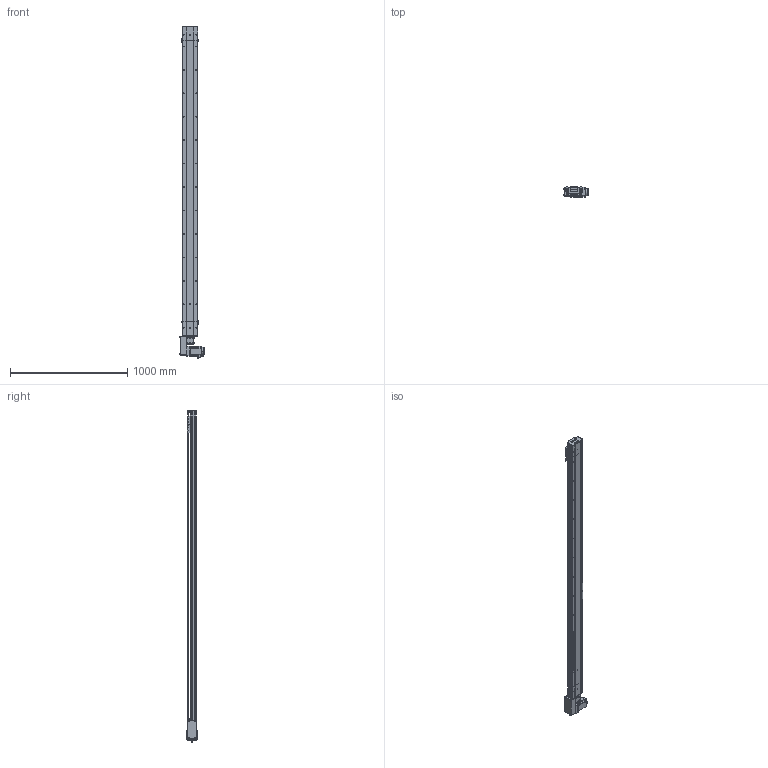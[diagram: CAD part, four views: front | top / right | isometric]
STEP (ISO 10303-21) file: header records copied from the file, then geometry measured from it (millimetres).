
FILE_DESCRIPTION (( 'STEP AP214' ), '1' );
FILE_NAME ('D14 TBH RH S2400.STEP', '2010-06-29T14:29:42', ( 'Conseil Régional Haute-Normandie' ), ( 'Conseil Régional Haute-Normandie' ), 'SwSTEP 2.0', 'SolidWorks 2010', '' );
FILE_SCHEMA (( 'AUTOMOTIVE_DESIGN' ));
Length unit declared in the file: millimetre
Products named in the file (39): Cache arbre_Default; poulie tail_Default; vis M5 L5_Default; Arbre+rail head D14; plaque de  bout head D14 RH_Default; avant 90BLDC100A-640; Couroie_Default; Moteur motionking 90BLDC100A-640; couvercle D14 head_Default; renvoi RH_Default; couroie 2_Default; Conecteur2_Default; Conecteur_Default; poulie head_Default; codeur 90BLDC100-640; corps 90BLDC100A-640; corp head D14_Default; D14 TB H RH_Default; Cache_Default; Plaque racord D14_Default; Cvis M5 L70_Default; Vis M5 L16-2_Default; vis M5 L12_Default; guide D14; chariot D14B_Default; Chariot D14; couvercle D14 course L2400_Default; Rail + couroie D14 Course 2400 ; vis M5 L8 90°_Default; couvercle D14_Default; Arbre+rail tail D14; vis M5 L16_Default; tete d''axe haut D14; plaque de  bout tail D14_Default; corpl tail D14_Default; Tail D14B_Default; corpl 2400_Default; D14 couroie L2400_Default; D14 TBH RH S2400
Assembly tree (68 placements, depth 4):
  D14 TBH RH S2400
    chariot D14B_Default
      vis M5 L12_Default  x4
      guide D14  x2
      Chariot D14
    D14 couroie L2400_Default
      couvercle D14 course L2400_Default
      corpl 2400_Default
      Rail + couroie D14 Course 2400 
    D14 TB H RH_Default
      Arbre+rail head D14
      vis M5 L12_Default  x12
      poulie head_Default
      Plaque racord D14_Default
      Vis M5 L16-2_Default  x4
      vis M5 L5_Default  x2
      Cache arbre_Default
      Moteur motionking 90BLDC100A-640
        codeur 90BLDC100-640
        corps 90BLDC100A-640
        Conecteur_Default
        Conecteur2_Default
        avant 90BLDC100A-640
      Cvis M5 L70_Default  x4
      renvoi RH_Default
      corp head D14_Default
      plaque de  bout head D14 RH_Default
      Cache_Default  x2
      couroie 2_Default
      couvercle D14 head_Default
    Tail D14B_Default
      vis M5 L12_Default  x4
      vis M5 L16_Default  x2
      Couroie_Default
      corpl tail D14_Default
      vis M5 L8 90°_Default  x2
      couvercle D14_Default
      tete d''axe haut D14
      Arbre+rail tail D14
      plaque de  bout tail D14_Default
      poulie tail_Default
Bounding box: 207.2 x 85.9 x 2832.45 mm (x, y, z)
Volume: 10339487.7 mm3; surface area: 3708046.3 mm2
Topology: 92 solids, 92 shells, 2725 faces, 6647 edges, 4290 vertices
Faces by surface type: plane 1613, cylinder 799, bspline 136, torus 89, cone 84, sphere 4
Entity records: 81980 total; most frequent: CARTESIAN_POINT 24001, ORIENTED_EDGE 10154, DIRECTION 10048, EDGE_CURVE 5077, AXIS2_PLACEMENT_3D 3351, VECTOR 3346, LINE 3346, VERTEX_POINT 3340
